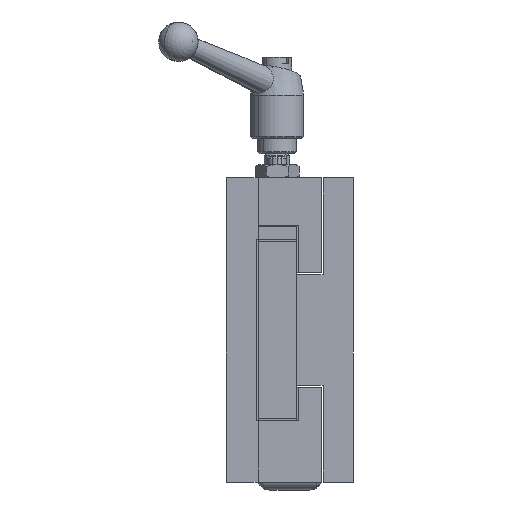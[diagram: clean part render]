
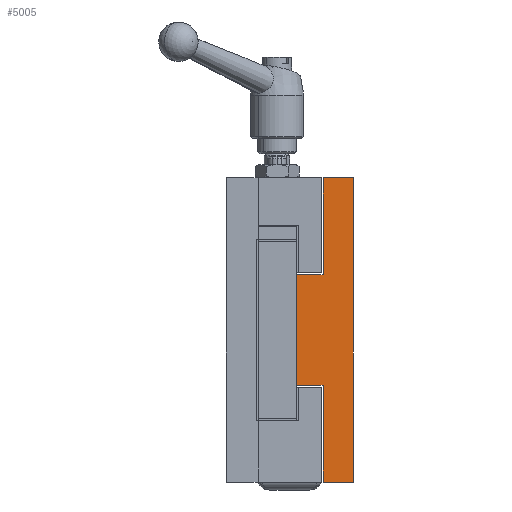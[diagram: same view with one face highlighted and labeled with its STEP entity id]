
A CAD part, left-side view. The second image highlights one B-rep face of the part: STEP entity #5005.
In plain terms, the highlighted planar face has unit normal (-1, 0, 0).
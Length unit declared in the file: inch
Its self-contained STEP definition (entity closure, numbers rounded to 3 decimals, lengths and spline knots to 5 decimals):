
#589 = VECTOR ( 'NONE', #9448, 39.37008 ) ;
#590 = VECTOR ( 'NONE', #9444, 39.37008 ) ;
#591 = VECTOR ( 'NONE', #9441, 39.37008 ) ;
#592 = VECTOR ( 'NONE', #9438, 39.37008 ) ;
#593 = VECTOR ( 'NONE', #9435, 39.37008 ) ;
#595 = VECTOR ( 'NONE', #9430, 39.37008 ) ;
#596 = VECTOR ( 'NONE', #9432, 39.37008 ) ;
#645 = CARTESIAN_POINT ( 'NONE',  ( 0., 0., -1.5 ) ) ;
#1299 = ORIENTED_EDGE ( 'NONE', *, *, #8012, .F. ) ;
#1300 = ORIENTED_EDGE ( 'NONE', *, *, #8011, .F. ) ;
#1301 = ORIENTED_EDGE ( 'NONE', *, *, #8010, .T. ) ;
#1302 = ORIENTED_EDGE ( 'NONE', *, *, #8009, .T. ) ;
#1303 = ORIENTED_EDGE ( 'NONE', *, *, #5963, .F. ) ;
#2439 = ORIENTED_EDGE ( 'NONE', *, *, #8015, .T. ) ;
#2440 = ORIENTED_EDGE ( 'NONE', *, *, #8014, .T. ) ;
#2441 = ORIENTED_EDGE ( 'NONE', *, *, #8013, .F. ) ;
#2498 = EDGE_LOOP ( 'NONE', ( #2439, #2440, #2441, #1299, #1300, #1301, #1302, #1303 ) ) ;
#2650 = VECTOR ( 'NONE', #9659, 39.37008 ) ;
#2876 = AXIS2_PLACEMENT_3D ( 'NONE', #4920, #4926, #4927 ) ;
#4038 = VERTEX_POINT ( 'NONE', #645 ) ;
#4576 = VERTEX_POINT ( 'NONE', #5349 ) ;
#4584 = VERTEX_POINT ( 'NONE', #5357 ) ;
#4586 = VERTEX_POINT ( 'NONE', #5359 ) ;
#4594 = VERTEX_POINT ( 'NONE', #5367 ) ;
#4597 = VERTEX_POINT ( 'NONE', #5370 ) ;
#4599 = VERTEX_POINT ( 'NONE', #5372 ) ;
#4610 = VERTEX_POINT ( 'NONE', #5383 ) ;
#4918 = PLANE ( 'NONE',  #2876 ) ;
#4920 = CARTESIAN_POINT ( 'NONE',  ( 0., 0., 1.5 ) ) ;
#4924 = FACE_OUTER_BOUND ( 'NONE', #2498, .T. ) ;
#4926 = DIRECTION ( 'NONE',  ( 1., 0., 0. ) ) ;
#4927 = DIRECTION ( 'NONE',  ( 0., 0., -1. ) ) ;
#5005 = ADVANCED_FACE ( 'NONE', ( #4924 ), #4918, .F. ) ;
#5349 = CARTESIAN_POINT ( 'NONE',  ( 0., 0.5625, -0.54688 ) ) ;
#5357 = CARTESIAN_POINT ( 'NONE',  ( 0., 0.5625, 0.54688 ) ) ;
#5359 = CARTESIAN_POINT ( 'NONE',  ( 0., 0., 1.5 ) ) ;
#5367 = CARTESIAN_POINT ( 'NONE',  ( 0., 0.29688, -0.54688 ) ) ;
#5370 = CARTESIAN_POINT ( 'NONE',  ( 0., 0.29688, 1.5 ) ) ;
#5372 = CARTESIAN_POINT ( 'NONE',  ( 0., 0.29688, -1.5 ) ) ;
#5383 = CARTESIAN_POINT ( 'NONE',  ( 0., 0.29688, 0.54688 ) ) ;
#5963 = EDGE_CURVE ( 'NONE', #4576, #4584, #9656, .T. ) ;
#8009 = EDGE_CURVE ( 'NONE', #4610, #4584, #9427, .T. ) ;
#8010 = EDGE_CURVE ( 'NONE', #4597, #4610, #9420, .T. ) ;
#8011 = EDGE_CURVE ( 'NONE', #4597, #4586, #9433, .T. ) ;
#8012 = EDGE_CURVE ( 'NONE', #4586, #4038, #9436, .T. ) ;
#8013 = EDGE_CURVE ( 'NONE', #4038, #4599, #9439, .T. ) ;
#8014 = EDGE_CURVE ( 'NONE', #4594, #4599, #9442, .T. ) ;
#8015 = EDGE_CURVE ( 'NONE', #4576, #4594, #9445, .T. ) ;
#9420 = LINE ( 'NONE', #9431, #596 ) ;
#9427 = LINE ( 'NONE', #9429, #595 ) ;
#9429 = CARTESIAN_POINT ( 'NONE',  ( 0., 0.5625, 0.54688 ) ) ;
#9430 = DIRECTION ( 'NONE',  ( 0., 1., 0. ) ) ;
#9431 = CARTESIAN_POINT ( 'NONE',  ( 0., 0.29688, 1.5 ) ) ;
#9432 = DIRECTION ( 'NONE',  ( 0., 0., -1. ) ) ;
#9433 = LINE ( 'NONE', #9434, #593 ) ;
#9434 = CARTESIAN_POINT ( 'NONE',  ( 0., 0.5625, 1.5 ) ) ;
#9435 = DIRECTION ( 'NONE',  ( 0., -1., 0. ) ) ;
#9436 = LINE ( 'NONE', #9437, #592 ) ;
#9437 = CARTESIAN_POINT ( 'NONE',  ( 0., 0., 1.5 ) ) ;
#9438 = DIRECTION ( 'NONE',  ( 0., 0., -1. ) ) ;
#9439 = LINE ( 'NONE', #9440, #591 ) ;
#9440 = CARTESIAN_POINT ( 'NONE',  ( 0., 0.5625, -1.5 ) ) ;
#9441 = DIRECTION ( 'NONE',  ( 0., 1., 0. ) ) ;
#9442 = LINE ( 'NONE', #9443, #590 ) ;
#9443 = CARTESIAN_POINT ( 'NONE',  ( 0., 0.29688, -1.5 ) ) ;
#9444 = DIRECTION ( 'NONE',  ( 0., 0., -1. ) ) ;
#9445 = LINE ( 'NONE', #9447, #589 ) ;
#9447 = CARTESIAN_POINT ( 'NONE',  ( 0., 0.5625, -0.54688 ) ) ;
#9448 = DIRECTION ( 'NONE',  ( 0., -1., 0. ) ) ;
#9656 = LINE ( 'NONE', #9658, #2650 ) ;
#9658 = CARTESIAN_POINT ( 'NONE',  ( 0., 0.5625, 1.5 ) ) ;
#9659 = DIRECTION ( 'NONE',  ( 0., 0., 1. ) ) ;
